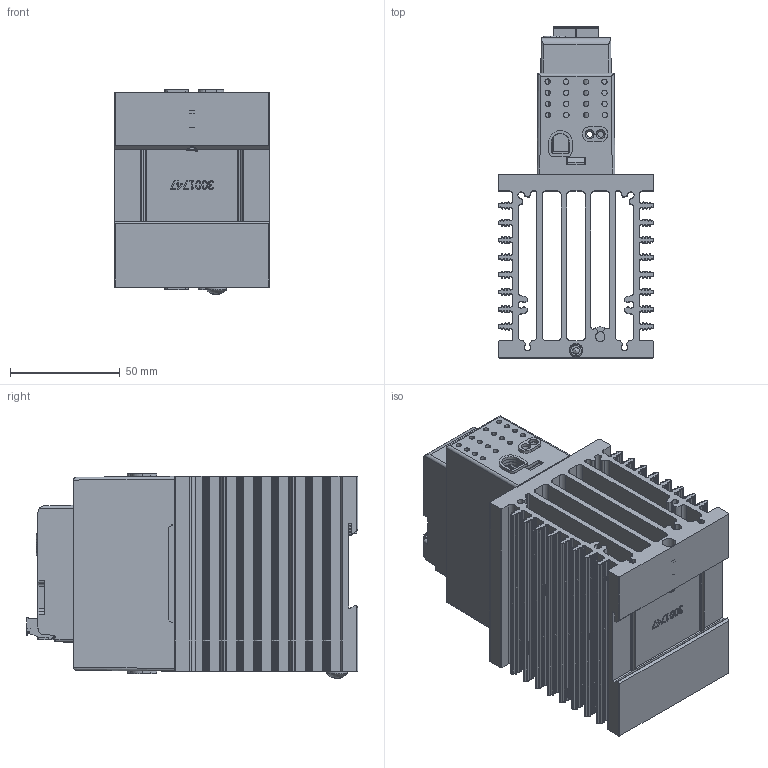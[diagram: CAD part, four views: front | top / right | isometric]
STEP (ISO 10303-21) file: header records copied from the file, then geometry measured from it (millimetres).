
FILE_DESCRIPTION(/* description */ (''),/* implementation_level */ '2;1');
FILE_NAME(/* name */ '1-phase Analog 50A.stp',/* time_stamp */ '2024-10-29T14:28:33-05:00',/* author */ ('ErikG'),/* organization */ (''),/* preprocessor_version */ 'ST-DEVELOPER v20',/* originating_system */ 'Autodesk Inventor 2025',/* authorisation */ '');
FILE_SCHEMA (('AUTOMOTIVE_DESIGN { 1 0 10303 214 3 1 1 }'));
Products named in the file (20): 3001631e; 3001757; 1001578K; P1; fci 6 pin header OQ06120000J0G; fci 6 pin headerOQ06120000J0G half 1; fci 5 pin header OQ05120000J0G half 2; fci 6 pin connector TS06110B00J0G; fci 5 pin connector TS05110B00J0G LEFT HALF; fci 5 pin connector TS05110B00J0G RIGHT HALF; P4; usb-c31-s-vt-cs4-bk-pp-t-r-model ADAMTECH; 3001759; 3001760; 3001755; 3001756; 3001747; 0060702-1032-0375; 0060783-0610-010.ipt; spring
Assembly tree (20 placements, depth 6):
  3001631e
    3001757
    1001578K
      P1
        fci 6 pin header OQ06120000J0G
          fci 6 pin headerOQ06120000J0G half 1
          fci 5 pin header OQ05120000J0G half 2
          fci 6 pin connector TS06110B00J0G
            fci 5 pin connector TS05110B00J0G LEFT HALF
            fci 5 pin connector TS05110B00J0G RIGHT HALF
      P4
        usb-c31-s-vt-cs4-bk-pp-t-r-model ADAMTECH
    3001759
    3001760  x2
    3001755
    3001756
    3001747
    0060702-1032-0375
    0060783-0610-010.ipt
    spring
Bounding box: 71.12 x 151.53 x 93.49 mm (x, y, z)
Volume: 258566.5 mm3; surface area: 209670.6 mm2
Topology: 16 solids, 106 shells, 5093 faces, 13971 edges, 9163 vertices
Faces by surface type: plane 3628, cylinder 1099, cone 204, bspline 105, torus 54, sphere 3
Full cylindrical faces by diameter (mm): 0.254 x1, 0.45 x2, 0.55 x2, 0.65 x2, 1 x2, 2.3 x12, 2.54 x2, 2.642 x3, 2.95 x6, 3.277 x2, 4.826 x1, 4.917 x1, 6 x1, 6.172 x1, 7.976 x1, 9.474 x1
Entity records: 175208 total; most frequent: CARTESIAN_POINT 45128, ORIENTED_EDGE 27684, DIRECTION 25928, EDGE_CURVE 13842, LINE 10296, VECTOR 10296, VERTEX_POINT 9083, AXIS2_PLACEMENT_3D 7816
